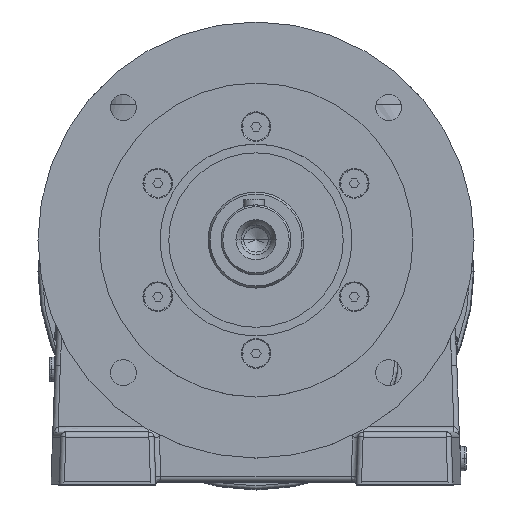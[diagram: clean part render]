
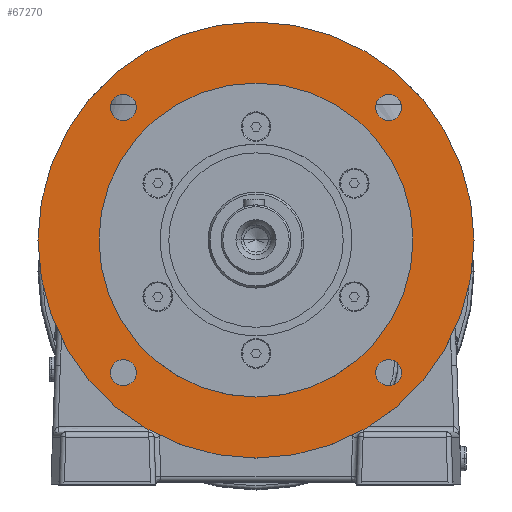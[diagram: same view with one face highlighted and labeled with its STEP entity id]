
A CAD part, top view. The second image highlights one B-rep face of the part: STEP entity #67270.
In plain terms, the highlighted planar face has unit normal (0, 0, 1).
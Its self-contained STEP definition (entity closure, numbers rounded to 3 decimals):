
#29431 = CIRCLE ( 'NONE', #29496, 7.5 ) ;
#29432 = CARTESIAN_POINT ( 'NONE',  ( -83.514, 76.014, -5. ) ) ;
#29492 = CARTESIAN_POINT ( 'NONE',  ( -68.514, 76.014, -5. ) ) ;
#29493 = DIRECTION ( 'NONE',  ( 1., 0., 0. ) ) ;
#29494 = DIRECTION ( 'NONE',  ( 0., 0., 1. ) ) ;
#29495 = CARTESIAN_POINT ( 'NONE',  ( -76.014, 76.014, -5. ) ) ;
#29496 = AXIS2_PLACEMENT_3D ( 'NONE', #29495, #29494, #29493 ) ;
#29507 = CARTESIAN_POINT ( 'NONE',  ( 83.514, 76.014, -5. ) ) ;
#29508 = DIRECTION ( 'NONE',  ( 1., 0., 0. ) ) ;
#29509 = DIRECTION ( 'NONE',  ( 0., 0., 1. ) ) ;
#29510 = CARTESIAN_POINT ( 'NONE',  ( 76.014, 76.014, -5. ) ) ;
#29511 = AXIS2_PLACEMENT_3D ( 'NONE', #29510, #29509, #29508 ) ;
#29512 = CIRCLE ( 'NONE', #29511, 7.5 ) ;
#29513 = CARTESIAN_POINT ( 'NONE',  ( 68.514, 76.014, -5. ) ) ;
#29518 = CARTESIAN_POINT ( 'NONE',  ( -90., 0., -5. ) ) ;
#29519 = CARTESIAN_POINT ( 'NONE',  ( 90., 0., -5. ) ) ;
#29566 = CARTESIAN_POINT ( 'NONE',  ( 83.514, -76.014, -5. ) ) ;
#29567 = DIRECTION ( 'NONE',  ( 1., 0., 0. ) ) ;
#29568 = DIRECTION ( 'NONE',  ( 0., 0., 1. ) ) ;
#29569 = CARTESIAN_POINT ( 'NONE',  ( 76.014, -76.014, -5. ) ) ;
#29570 = AXIS2_PLACEMENT_3D ( 'NONE', #29569, #29568, #29567 ) ;
#29571 = CIRCLE ( 'NONE', #29570, 7.5 ) ;
#29572 = CARTESIAN_POINT ( 'NONE',  ( 68.514, -76.014, -5. ) ) ;
#29598 = CARTESIAN_POINT ( 'NONE',  ( -68.514, -76.014, -5. ) ) ;
#29599 = DIRECTION ( 'NONE',  ( 1., 0., 0. ) ) ;
#29600 = DIRECTION ( 'NONE',  ( 0., 0., 1. ) ) ;
#29601 = CARTESIAN_POINT ( 'NONE',  ( -76.014, -76.014, -5. ) ) ;
#29602 = AXIS2_PLACEMENT_3D ( 'NONE', #29601, #29600, #29599 ) ;
#29603 = CIRCLE ( 'NONE', #29602, 7.5 ) ;
#29604 = CARTESIAN_POINT ( 'NONE',  ( -83.514, -76.014, -5. ) ) ;
#29699 = CARTESIAN_POINT ( 'NONE',  ( 125., 0., -5. ) ) ;
#29700 = DIRECTION ( 'NONE',  ( 1., 0., 0. ) ) ;
#29701 = DIRECTION ( 'NONE',  ( 0., 0., 1. ) ) ;
#29702 = CARTESIAN_POINT ( 'NONE',  ( 0., 0., -5. ) ) ;
#29703 = AXIS2_PLACEMENT_3D ( 'NONE', #29702, #29701, #29700 ) ;
#29704 = CIRCLE ( 'NONE', #29703, 125. ) ;
#29705 = CARTESIAN_POINT ( 'NONE',  ( -125., 0., -5. ) ) ;
#29730 = DIRECTION ( 'NONE',  ( 1., 0., 0. ) ) ;
#29731 = DIRECTION ( 'NONE',  ( 0., 0., 1. ) ) ;
#29732 = AXIS2_PLACEMENT_3D ( 'NONE', #29738, #29731, #29730 ) ;
#29733 = CIRCLE ( 'NONE', #29732, 90. ) ;
#29738 = CARTESIAN_POINT ( 'NONE',  ( 0., 0., -5. ) ) ;
#30160 = DIRECTION ( 'NONE',  ( -1., 0., 0. ) ) ;
#30161 = DIRECTION ( 'NONE',  ( 0., 0., -1. ) ) ;
#30162 = CARTESIAN_POINT ( 'NONE',  ( 0., 90., -5. ) ) ;
#30163 = AXIS2_PLACEMENT_3D ( 'NONE', #30162, #30161, #30160 ) ;
#30164 = PLANE ( 'NONE',  #30163 ) ;
#30179 = FACE_BOUND ( 'NONE', #67423, .T. ) ;
#30180 = FACE_BOUND ( 'NONE', #67412, .T. ) ;
#30181 = FACE_OUTER_BOUND ( 'NONE', #67403, .T. ) ;
#30182 = FACE_BOUND ( 'NONE', #67295, .T. ) ;
#30183 = FACE_BOUND ( 'NONE', #67286, .T. ) ;
#30187 = FACE_BOUND ( 'NONE', #67276, .T. ) ;
#30211 = DIRECTION ( 'NONE',  ( 1., 0., 0. ) ) ;
#30212 = DIRECTION ( 'NONE',  ( 0., 0., 1. ) ) ;
#30213 = CARTESIAN_POINT ( 'NONE',  ( -76.014, 76.014, -5. ) ) ;
#30214 = AXIS2_PLACEMENT_3D ( 'NONE', #30213, #30212, #30211 ) ;
#30215 = CIRCLE ( 'NONE', #30214, 7.5 ) ;
#30216 = DIRECTION ( 'NONE',  ( 1., 0., 0. ) ) ;
#30217 = DIRECTION ( 'NONE',  ( 0., 0., 1. ) ) ;
#30218 = CARTESIAN_POINT ( 'NONE',  ( 76.014, 76.014, -5. ) ) ;
#30219 = AXIS2_PLACEMENT_3D ( 'NONE', #30218, #30217, #30216 ) ;
#30220 = CIRCLE ( 'NONE', #30219, 7.5 ) ;
#30225 = DIRECTION ( 'NONE',  ( 1., 0., 0. ) ) ;
#30226 = DIRECTION ( 'NONE',  ( 0., 0., 1. ) ) ;
#30227 = CARTESIAN_POINT ( 'NONE',  ( 76.014, -76.014, -5. ) ) ;
#30228 = AXIS2_PLACEMENT_3D ( 'NONE', #30227, #30226, #30225 ) ;
#30229 = CIRCLE ( 'NONE', #30228, 7.5 ) ;
#66553 = VERTEX_POINT ( 'NONE', #29432 ) ;
#66557 = EDGE_CURVE ( 'NONE', #66553, #66559, #29431, .T. ) ;
#66559 = VERTEX_POINT ( 'NONE', #29492 ) ;
#66588 = VERTEX_POINT ( 'NONE', #29513 ) ;
#66592 = EDGE_CURVE ( 'NONE', #66588, #66594, #29512, .T. ) ;
#66594 = VERTEX_POINT ( 'NONE', #29507 ) ;
#66640 = VERTEX_POINT ( 'NONE', #29519 ) ;
#66642 = VERTEX_POINT ( 'NONE', #29518 ) ;
#66657 = VERTEX_POINT ( 'NONE', #29572 ) ;
#66661 = EDGE_CURVE ( 'NONE', #66657, #66664, #29571, .T. ) ;
#66664 = VERTEX_POINT ( 'NONE', #29566 ) ;
#66694 = VERTEX_POINT ( 'NONE', #29604 ) ;
#66698 = EDGE_CURVE ( 'NONE', #66694, #66699, #29603, .T. ) ;
#66699 = VERTEX_POINT ( 'NONE', #29598 ) ;
#66797 = VERTEX_POINT ( 'NONE', #29705 ) ;
#66801 = EDGE_CURVE ( 'NONE', #66803, #66797, #29704, .T. ) ;
#66803 = VERTEX_POINT ( 'NONE', #29699 ) ;
#66817 = EDGE_CURVE ( 'NONE', #66640, #66642, #29733, .T. ) ;
#67270 = ADVANCED_FACE ( 'NONE', ( #30187, #30183, #30182, #30181, #30180, #30179 ), #30164, .F. ) ;
#67276 = EDGE_LOOP ( 'NONE', ( #67279, #67283 ) ) ;
#67279 = ORIENTED_EDGE ( 'NONE', *, *, #67281, .F. ) ;
#67281 = EDGE_CURVE ( 'NONE', #66594, #66588, #30220, .T. ) ;
#67283 = ORIENTED_EDGE ( 'NONE', *, *, #66592, .F. ) ;
#67286 = EDGE_LOOP ( 'NONE', ( #67288, #67292 ) ) ;
#67288 = ORIENTED_EDGE ( 'NONE', *, *, #67290, .F. ) ;
#67290 = EDGE_CURVE ( 'NONE', #66559, #66553, #30215, .T. ) ;
#67292 = ORIENTED_EDGE ( 'NONE', *, *, #66557, .F. ) ;
#67295 = EDGE_LOOP ( 'NONE', ( #67392, #67401 ) ) ;
#67364 = EDGE_CURVE ( 'NONE', #66664, #66657, #30229, .T. ) ;
#67367 = ORIENTED_EDGE ( 'NONE', *, *, #66661, .F. ) ;
#67392 = ORIENTED_EDGE ( 'NONE', *, *, #67396, .F. ) ;
#67396 = EDGE_CURVE ( 'NONE', #66699, #66694, #78046, .T. ) ;
#67401 = ORIENTED_EDGE ( 'NONE', *, *, #66698, .F. ) ;
#67403 = EDGE_LOOP ( 'NONE', ( #67405, #67407 ) ) ;
#67405 = ORIENTED_EDGE ( 'NONE', *, *, #66801, .T. ) ;
#67407 = ORIENTED_EDGE ( 'NONE', *, *, #67409, .T. ) ;
#67409 = EDGE_CURVE ( 'NONE', #66797, #66803, #78185, .T. ) ;
#67412 = EDGE_LOOP ( 'NONE', ( #67414, #67416 ) ) ;
#67414 = ORIENTED_EDGE ( 'NONE', *, *, #66817, .F. ) ;
#67416 = ORIENTED_EDGE ( 'NONE', *, *, #67420, .F. ) ;
#67420 = EDGE_CURVE ( 'NONE', #66642, #66640, #78173, .T. ) ;
#67423 = EDGE_LOOP ( 'NONE', ( #67427, #67367 ) ) ;
#67427 = ORIENTED_EDGE ( 'NONE', *, *, #67364, .F. ) ;
#78039 = DIRECTION ( 'NONE',  ( 1., 0., 0. ) ) ;
#78041 = DIRECTION ( 'NONE',  ( 0., 0., 1. ) ) ;
#78043 = CARTESIAN_POINT ( 'NONE',  ( -76.014, -76.014, -5. ) ) ;
#78045 = AXIS2_PLACEMENT_3D ( 'NONE', #78043, #78041, #78039 ) ;
#78046 = CIRCLE ( 'NONE', #78045, 7.5 ) ;
#78166 = DIRECTION ( 'NONE',  ( 1., 0., 0. ) ) ;
#78168 = DIRECTION ( 'NONE',  ( 0., 0., 1. ) ) ;
#78170 = CARTESIAN_POINT ( 'NONE',  ( 0., 0., -5. ) ) ;
#78171 = AXIS2_PLACEMENT_3D ( 'NONE', #78170, #78168, #78166 ) ;
#78173 = CIRCLE ( 'NONE', #78171, 90. ) ;
#78178 = DIRECTION ( 'NONE',  ( 1., 0., 0. ) ) ;
#78180 = DIRECTION ( 'NONE',  ( 0., 0., 1. ) ) ;
#78182 = CARTESIAN_POINT ( 'NONE',  ( 0., 0., -5. ) ) ;
#78184 = AXIS2_PLACEMENT_3D ( 'NONE', #78182, #78180, #78178 ) ;
#78185 = CIRCLE ( 'NONE', #78184, 125. ) ;
